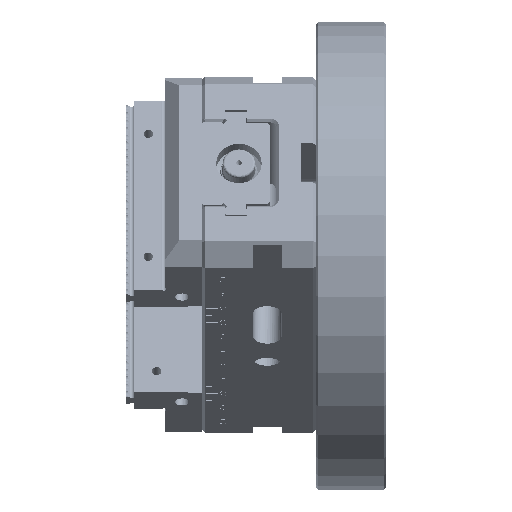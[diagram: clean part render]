
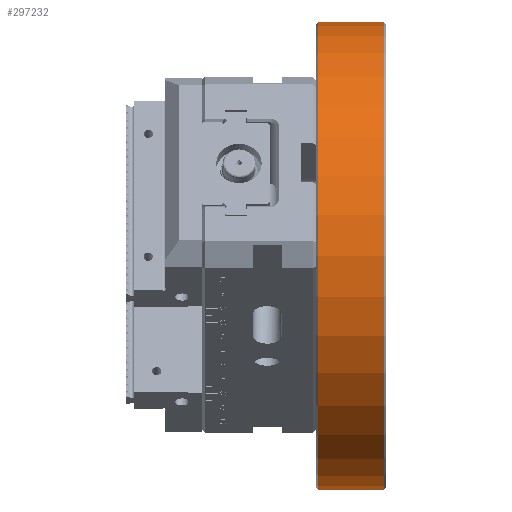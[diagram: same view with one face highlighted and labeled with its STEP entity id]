
A CAD part, left-side view. The second image highlights one B-rep face of the part: STEP entity #297232.
In plain terms, the highlighted cylindrical face has radius 82.5 mm (diameter 165 mm), a partial arc.
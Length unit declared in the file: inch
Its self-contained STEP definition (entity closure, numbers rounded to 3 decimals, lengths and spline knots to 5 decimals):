
#6544 = EDGE_CURVE ( 'NONE', #105633, #234740, #255598, .T. ) ;
#11352 = DIRECTION ( 'NONE',  ( 0., 0., 1. ) ) ;
#16296 = EDGE_LOOP ( 'NONE', ( #248207, #113984, #128939, #61059 ) ) ;
#25020 = CARTESIAN_POINT ( 'NONE',  ( 0., 0.03937, 0. ) ) ;
#45200 = AXIS2_PLACEMENT_3D ( 'NONE', #199521, #54350, #293690 ) ;
#48107 = DIRECTION ( 'NONE',  ( 0., -1., 0. ) ) ;
#50072 = EDGE_CURVE ( 'NONE', #151222, #105633, #167079, .T. ) ;
#53431 = AXIS2_PLACEMENT_3D ( 'NONE', #25020, #193256, #213373 ) ;
#54350 = DIRECTION ( 'NONE',  ( 0., -1., 0. ) ) ;
#54826 = VERTEX_POINT ( 'NONE', #286543 ) ;
#61059 = ORIENTED_EDGE ( 'NONE', *, *, #6544, .T. ) ;
#93581 = DIRECTION ( 'NONE',  ( 0., -1., 0. ) ) ;
#99912 = VECTOR ( 'NONE', #93581, 39.37008 ) ;
#105313 = CIRCLE ( 'NONE', #164536, 3.24803 ) ;
#105633 = VERTEX_POINT ( 'NONE', #299480 ) ;
#113984 = ORIENTED_EDGE ( 'NONE', *, *, #261529, .T. ) ;
#115332 = LINE ( 'NONE', #208050, #99912 ) ;
#128939 = ORIENTED_EDGE ( 'NONE', *, *, #50072, .T. ) ;
#148768 = CARTESIAN_POINT ( 'NONE',  ( 0., 0.94488, -3.24803 ) ) ;
#151222 = VERTEX_POINT ( 'NONE', #148768 ) ;
#154851 = DIRECTION ( 'NONE',  ( 0., -1., 0. ) ) ;
#155616 = VECTOR ( 'NONE', #48107, 39.37008 ) ;
#164536 = AXIS2_PLACEMENT_3D ( 'NONE', #225864, #154851, #11352 ) ;
#167079 = LINE ( 'NONE', #217908, #155616 ) ;
#168058 = CARTESIAN_POINT ( 'NONE',  ( 0., 0.03937, 3.24803 ) ) ;
#171825 = CYLINDRICAL_SURFACE ( 'NONE', #45200, 3.24803 ) ;
#173346 = FACE_OUTER_BOUND ( 'NONE', #16296, .T. ) ;
#193256 = DIRECTION ( 'NONE',  ( 0., 1., 0. ) ) ;
#199521 = CARTESIAN_POINT ( 'NONE',  ( 0., 0.98425, 0. ) ) ;
#208050 = CARTESIAN_POINT ( 'NONE',  ( 0., 0.98425, 3.24803 ) ) ;
#213373 = DIRECTION ( 'NONE',  ( 0., 0., 1. ) ) ;
#217908 = CARTESIAN_POINT ( 'NONE',  ( 0., 0.98425, -3.24803 ) ) ;
#225864 = CARTESIAN_POINT ( 'NONE',  ( 0., 0.94488, 0. ) ) ;
#226168 = EDGE_CURVE ( 'NONE', #54826, #234740, #115332, .T. ) ;
#234740 = VERTEX_POINT ( 'NONE', #168058 ) ;
#248207 = ORIENTED_EDGE ( 'NONE', *, *, #226168, .F. ) ;
#255598 = CIRCLE ( 'NONE', #53431, 3.24803 ) ;
#261529 = EDGE_CURVE ( 'NONE', #54826, #151222, #105313, .T. ) ;
#286543 = CARTESIAN_POINT ( 'NONE',  ( 0., 0.94488, 3.24803 ) ) ;
#293690 = DIRECTION ( 'NONE',  ( 0., 0., -1. ) ) ;
#297232 = ADVANCED_FACE ( 'NONE', ( #173346 ), #171825, .T. ) ;
#299480 = CARTESIAN_POINT ( 'NONE',  ( 0., 0.03937, -3.24803 ) ) ;
